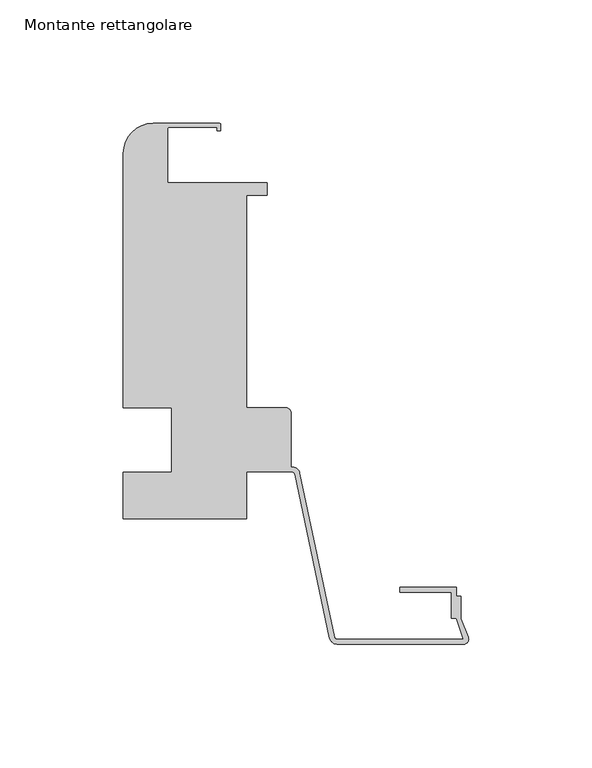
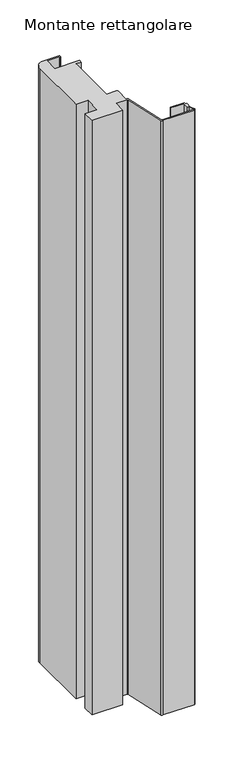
"""IFC4 building model written with IfcOpenShell, lengths in millimetres: member geometry, Montante rettangolare : Aluk_SL50_Attacco base."""

from ifc_helpers import new_model, si_unit, point, frame, frame_2d, origin, place, context, project, spatial, polyline, circle_curve, trimmed, segment, composite_curve, outline, extrude, source, transform, mapped, element, save


def montante_rettangolare_b1c052bd(model_context):
    return source(origin(), model_context, "Body", "SweptSolid", [
        extrude(outline(composite_curve([segment(trimmed(circle_curve(frame_2d((-74.0493909, 14.402221)), 2.0), [point((-74.0493909, 16.402221))], [point((-72.0493909, 14.402221))], False, "CARTESIAN"), True, "CONTINUOUS"), segment(polyline([(-72.0493909, 14.402221), (-72.0493909, -7.6609857)]), True, "CONTINUOUS"), segment(trimmed(circle_curve(frame_2d((-71.4368184, -10.597779)), 3.0), [point((-72.0493909, -7.6609857))], [point((-68.4823952, -10.0768345))], False, "CARTESIAN"), True, "CONTINUOUS"), segment(polyline([(-68.4823952, -10.0768345), (-54.3491051, -76.5137179)]), True, "CONTINUOUS"), segment(trimmed(circle_curve(frame_2d((-53.3642974, -76.3400697)), 1.0), [point((-54.3491051, -76.5137179))], [point((-53.3642974, -77.3400697))], True, "CARTESIAN"), True, "CONTINUOUS"), segment(polyline([(-53.3642974, -77.3400697), (-2.0383191, -77.3400697), (-5.0594239, -68.9258721), (-7.0420396, -68.9258721), (-7.0420396, -58.2291236), (-27.9257793, -58.2291236), (-27.9257793, -56.2291236), (-5.0420396, -56.2291236), (-5.0420396, -59.9742897), (-3.1963467, -59.9742897), (-3.1963467, -68.9742897), (-0.1433912, -76.5964275)]), True, "CONTINUOUS"), segment(trimmed(circle_curve(frame_2d((-2.0, -77.3400697)), 2.0), [point((-0.1433912, -76.5964275))], [point((-2.0, -79.3400697))], False, "CARTESIAN"), True, "CONTINUOUS"), segment(polyline([(-2.0, -79.3400697), (-53.3642974, -79.3400697)]), True, "CONTINUOUS"), segment(trimmed(circle_curve(frame_2d((-53.3642974, -76.3400697)), 3.0), [point((-53.3642974, -79.3400697))], [point((-56.3187206, -76.8610143))], False, "CARTESIAN"), True, "CONTINUOUS"), segment(polyline([(-56.3187206, -76.8610143), (-70.4520107, -10.4241309)]), True, "CONTINUOUS"), segment(trimmed(circle_curve(frame_2d((-71.4368184, -10.597779)), 1.0), [point((-70.4520107, -10.4241309))], [point((-71.4368184, -9.597779))], True, "CARTESIAN"), True, "CONTINUOUS"), segment(polyline([(-71.4368184, -9.597779), (-89.9797056, -9.597779), (-89.9797056, -28.5948782), (-139.9938184, -28.5948782), (-139.9938184, -9.6334956), (-120.4798846, -9.6334956), (-120.4798846, 16.4), (-139.9798846, 16.4), (-139.9798846, 119.6)]), True, "CONTINUOUS"), segment(trimmed(circle_curve(frame_2d((-127.9798846, 119.6)), 12.0), [point((-139.9798846, 119.6))], [point((-127.9798846, 131.6))], False, "CARTESIAN"), True, "CONTINUOUS"), segment(polyline([(-127.9798846, 131.6), (-100.9798846, 131.6)]), True, "CONTINUOUS"), segment(trimmed(circle_curve(frame_2d((-100.9798846, 131.1)), 0.5), [point((-100.9798846, 131.6))], [point((-100.4798846, 131.1))], False, "CARTESIAN"), True, "CONTINUOUS"), segment(polyline([(-100.4798846, 131.1), (-100.4798846, 128.6), (-101.9798846, 128.6), (-101.9798846, 130.1), (-121.4798846, 130.1)]), True, "CONTINUOUS"), segment(trimmed(circle_curve(frame_2d((-121.4798846, 129.6)), 0.5), [point((-121.4798846, 130.1))], [point((-121.9798846, 129.6))], True, "CARTESIAN"), True, "CONTINUOUS"), segment(polyline([(-121.9798846, 129.6), (-121.9798846, 107.6), (-81.6473418, 107.6), (-81.6473418, 102.6), (-89.9798846, 102.6), (-89.9798846, 16.402221), (-74.0493909, 16.402221)]), True, "CONTINUOUS")], self_intersect=False)), frame((0.0, 0.0, -1024.6428571), z_axis=(0.0, 0.0, 1.0), x_axis=(1.0, 0.0, 0.0)), (0.0, 0.0, 1.0), 1024.6428571),
    ])


if __name__ == "__main__":
    model = new_model("IFC4")
    model_context = context("Model", 3, world=origin())
    ifc_project = project(units=[si_unit("LENGTHUNIT", "METRE", prefix="MILLI")], contexts=[model_context])
    site = spatial("IfcSite", under=ifc_project)
    building = spatial("IfcBuilding", under=site)
    placement = place(None, origin())
    montante_rettangolare_shape = montante_rettangolare_b1c052bd(model_context)
    element("IfcMember", 1, ObjectType="Montante rettangolare : Aluk_SL50_Attacco base", at=placement, inside=building, context=model_context, shape_type="MappedRepresentation", body=[
        mapped(montante_rettangolare_shape, transform((0.0, 0.0, 0.0), x_axis=(1.0, 0.0, 0.0), y_axis=(0.0, 1.0, 0.0), z_axis=(0.0, 0.0, 1.0))),
    ])
    save(model, "model.ifc")
